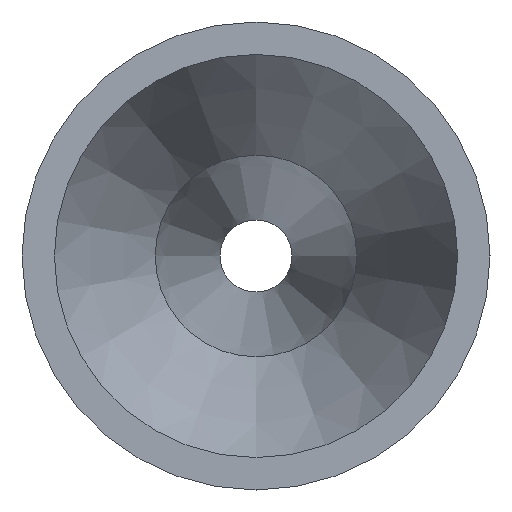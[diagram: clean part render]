
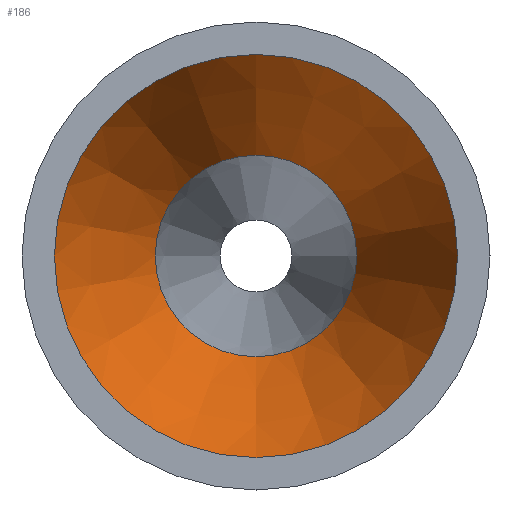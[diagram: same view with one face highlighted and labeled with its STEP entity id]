
A CAD part, left-side view. The second image highlights one B-rep face of the part: STEP entity #186.
In plain terms, the highlighted conical face has half-angle 23.318 degrees and reference radius 8.4 mm.
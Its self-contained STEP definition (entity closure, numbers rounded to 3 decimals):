
#8 = AXIS2_PLACEMENT_3D ( 'NONE', #112, #40, #228 ) ;
#15 = CIRCLE ( 'NONE', #62, 8.4 ) ;
#40 = DIRECTION ( 'NONE',  ( 1., 0., 0. ) ) ;
#41 = EDGE_CURVE ( 'NONE', #146, #146, #226, .T. ) ;
#43 = FACE_OUTER_BOUND ( 'NONE', #215, .T. ) ;
#62 = AXIS2_PLACEMENT_3D ( 'NONE', #73, #204, #151 ) ;
#73 = CARTESIAN_POINT ( 'NONE',  ( 6.021, 0., 0. ) ) ;
#76 = ORIENTED_EDGE ( 'NONE', *, *, #41, .T. ) ;
#88 = EDGE_LOOP ( 'NONE', ( #76 ) ) ;
#89 = CONICAL_SURFACE ( 'NONE', #195, 8.4, 0.407 ) ;
#112 = CARTESIAN_POINT ( 'NONE',  ( 15.765, 0., 0. ) ) ;
#134 = CARTESIAN_POINT ( 'NONE',  ( 6.021, 0., 0. ) ) ;
#135 = EDGE_CURVE ( 'NONE', #179, #179, #15, .T. ) ;
#137 = DIRECTION ( 'NONE',  ( -1., 0., 0. ) ) ;
#146 = VERTEX_POINT ( 'NONE', #236 ) ;
#151 = DIRECTION ( 'NONE',  ( 0., 0., 1. ) ) ;
#164 = CARTESIAN_POINT ( 'NONE',  ( 6.021, 0., 8.4 ) ) ;
#175 = FACE_BOUND ( 'NONE', #88, .T. ) ;
#179 = VERTEX_POINT ( 'NONE', #164 ) ;
#186 = ADVANCED_FACE ( 'NONE', ( #43, #175 ), #89, .F. ) ;
#191 = ORIENTED_EDGE ( 'NONE', *, *, #135, .T. ) ;
#195 = AXIS2_PLACEMENT_3D ( 'NONE', #134, #137, #233 ) ;
#204 = DIRECTION ( 'NONE',  ( -1., 0., 0. ) ) ;
#215 = EDGE_LOOP ( 'NONE', ( #191 ) ) ;
#226 = CIRCLE ( 'NONE', #8, 4.2 ) ;
#228 = DIRECTION ( 'NONE',  ( 0., 0., 1. ) ) ;
#233 = DIRECTION ( 'NONE',  ( 0., -1., 0. ) ) ;
#236 = CARTESIAN_POINT ( 'NONE',  ( 15.765, 0., 4.2 ) ) ;
